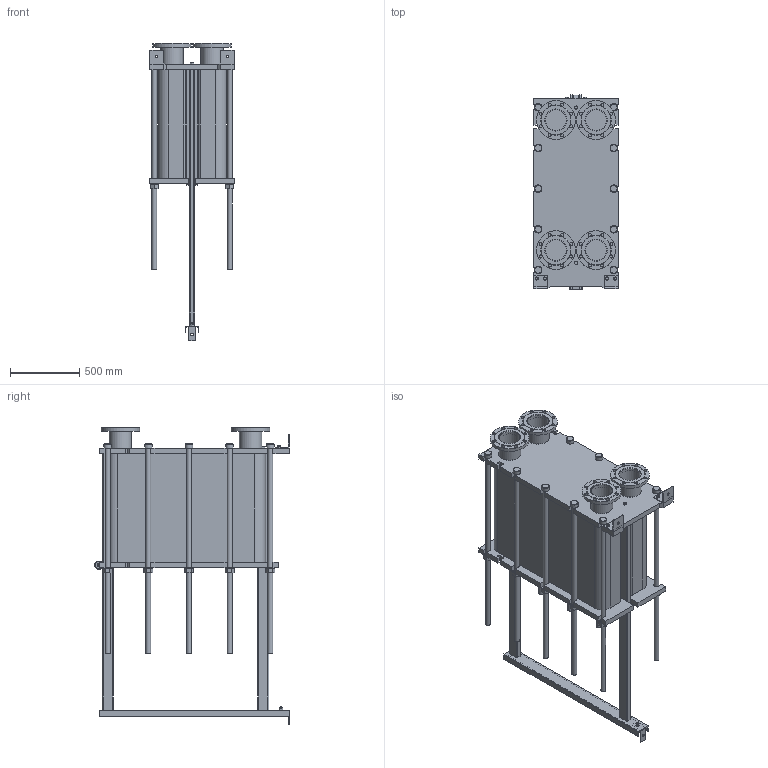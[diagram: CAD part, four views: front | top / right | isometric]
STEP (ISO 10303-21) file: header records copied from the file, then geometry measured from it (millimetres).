
FILE_DESCRIPTION(/* description */ (''),/* implementation_level */ '2;1');
FILE_NAME(/* name */ 'C:\Users\zhuro\Desktop\ENCO\TO\ЭН-041\ЭН-0,5-041-228-1.stp',/* time_stamp */ '2022-06-06T11:07:47+03:00',/* author */ ('zhuro'),/* organization */ (''),/* preprocessor_version */ 'ST-DEVELOPER v18.1',/* originating_system */ 'Autodesk Inventor 2022',/* authorisation */ '');
FILE_SCHEMA (('AUTOMOTIVE_DESIGN { 1 0 10303 214 3 1 1 }'));
Length unit declared in the file: millimetre
Products named in the file (1): ЭН-0,5-041-228-1
Bounding box: 610 x 1406.5 x 2150 mm (x, y, z)
Volume: 531881202.9 mm3; surface area: 11846806.2 mm2
Topology: 52 solids, 52 shells, 711 faces, 1696 edges, 1094 vertices
Faces by surface type: plane 487, cylinder 177, cone 41, torus 6
Full cylindrical faces by diameter (mm): 8 x4, 10 x2, 16 x8, 18 x3, 22 x32, 36 x24, 50 x1, 54 x10, 60 x12, 151 x4, 161 x8, 280 x4
Entity records: 22667 total; most frequent: CARTESIAN_POINT 5230, DIRECTION 3644, ORIENTED_EDGE 3392, EDGE_CURVE 1696, AXIS2_PLACEMENT_3D 1272, LINE 1100, VECTOR 1100, VERTEX_POINT 1094
